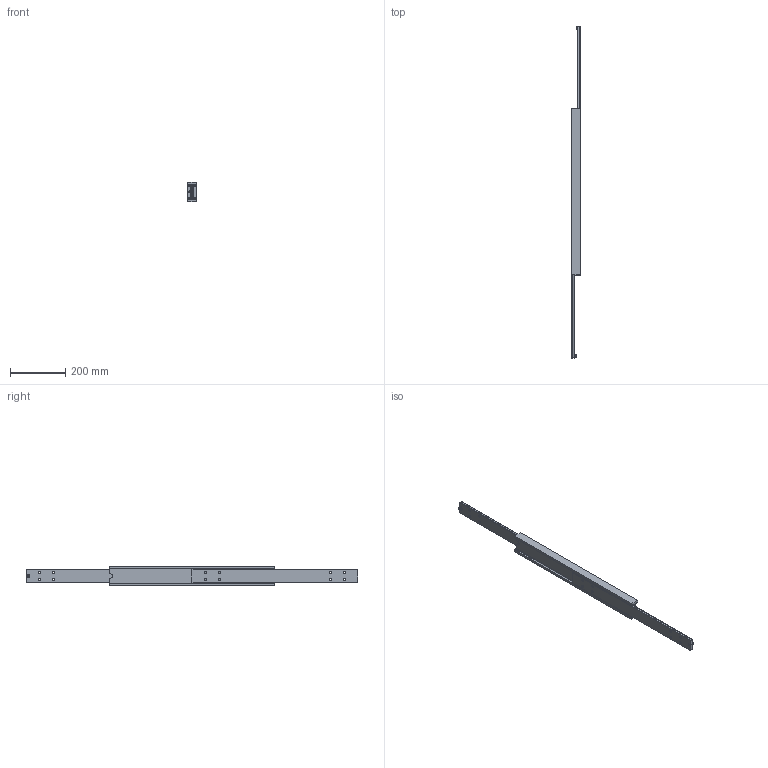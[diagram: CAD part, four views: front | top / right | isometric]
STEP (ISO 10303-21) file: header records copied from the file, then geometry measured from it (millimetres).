
FILE_DESCRIPTION(/* description */ (''),/* implementation_level */ '2;1');
FILE_NAME(/* name */ 'D:\Zeichnungen Schienen Komplett\MX-DTP70\MX-DTP70.060\MX-DTP70.060_ausgefahren.step',/* time_stamp */ '2022-03-03T12:39:14+01:00',/* author */ ('zmile'),/* organization */ (''),/* preprocessor_version */ 'ST-DEVELOPER v16.13',/* originating_system */ 'AutoCAD Mechanical',/* authorisation */ '');
FILE_SCHEMA (('AUTOMOTIVE_DESIGN { 1 0 10303 214 3 1 1 }'));
Length unit declared in the file: millimetre
Products named in the file (1): Product
Bounding box: 32 x 1200 x 70 mm (x, y, z)
Volume: 1021720.6 mm3; surface area: 365175 mm2
Topology: 37 solids, 39 shells, 158 faces, 488 edges, 344 vertices
Faces by surface type: plane 82, sphere 32, cylinder 30, bspline 8, torus 6
Full cylindrical faces by diameter (mm): 8 x16, 13 x2
Entity records: 11603 total; most frequent: CARTESIAN_POINT 7355, DIRECTION 850, ORIENTED_EDGE 700, EDGE_CURVE 398, VERTEX_POINT 342, AXIS2_PLACEMENT_3D 319, EDGE_LOOP 282, LINE 212
